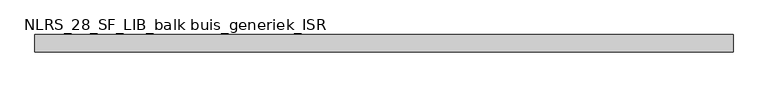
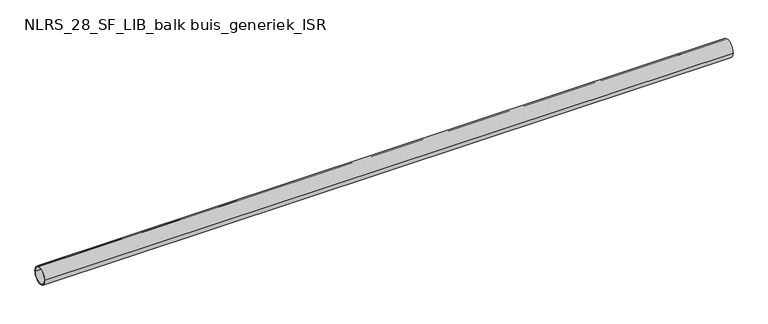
"""IFC4 building model written with IfcOpenShell, lengths in millimetres: beam geometry, NLRS_28_SF_LIB_balk buis_generiek_ISR : ø139.7x8."""

from ifc_helpers import new_model, si_unit, point, frame, origin, origin_2d, place, context, project, spatial, circle_curve, trimmed, segment, composite_curve, outline, extrude, source, transform, mapped, element, save


def nlrs_28_sf_lib_balk_buis_generiek_isr_6dce7139(model_context):
    return source(origin(), model_context, "Body", "SweptSolid", [
        extrude(outline(composite_curve([segment(trimmed(circle_curve(origin_2d(), 69.85), [point((-69.85, 0.0))], [point((69.85, 0.0))], False, "CARTESIAN"), True, "CONTINUOUS"), segment(trimmed(circle_curve(origin_2d(), 69.85), [point((69.85, 0.0))], [point((-69.85, 0.0))], False, "CARTESIAN"), True, "CONTINUOUS")], self_intersect=False), holes=[composite_curve([segment(trimmed(circle_curve(origin_2d(), 61.85), [point((61.85, 0.0))], [point((-61.85, 0.0))], True, "CARTESIAN"), True, "CONTINUOUS"), segment(trimmed(circle_curve(origin_2d(), 61.85), [point((-61.85, 0.0))], [point((61.85, 0.0))], True, "CARTESIAN"), True, "CONTINUOUS")], self_intersect=False)]), frame((-2694.6328099, 0.0, 0.0), z_axis=(1.0, 0.0, 0.0), x_axis=(0.0, 1.0, 0.0)), (0.0, 0.0, 1.0), 5552.1666404),
    ])


if __name__ == "__main__":
    model = new_model("IFC4")
    model_context = context("Model", 3, world=origin())
    ifc_project = project(units=[si_unit("LENGTHUNIT", "METRE", prefix="MILLI")], contexts=[model_context])
    site = spatial("IfcSite", under=ifc_project)
    building = spatial("IfcBuilding", under=site)
    placement = place(None, origin())
    nlrs_28_sf_lib_balk_buis_generiek_isr_shape = nlrs_28_sf_lib_balk_buis_generiek_isr_6dce7139(model_context)
    element("IfcBeam", 1, ObjectType="NLRS_28_SF_LIB_balk buis_generiek_ISR : ø139.7x8", at=placement, inside=building, context=model_context, shape_type="MappedRepresentation", body=[
        mapped(nlrs_28_sf_lib_balk_buis_generiek_isr_shape, transform((0.0, 0.0, 0.0), x_axis=(1.0, 0.0, 0.0), y_axis=(0.0, 1.0, 0.0), z_axis=(0.0, 0.0, 1.0))),
    ])
    save(model, "model.ifc")
